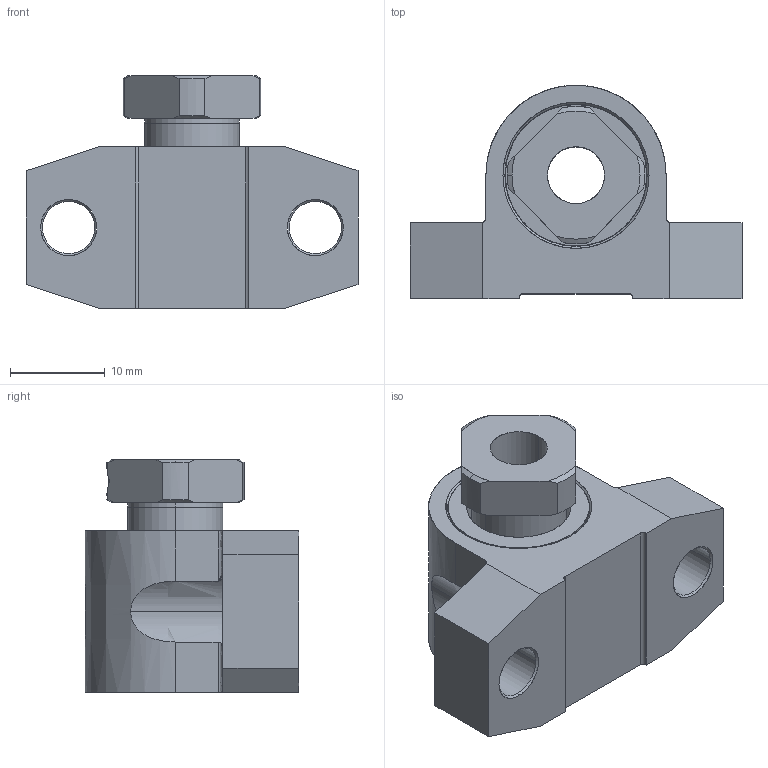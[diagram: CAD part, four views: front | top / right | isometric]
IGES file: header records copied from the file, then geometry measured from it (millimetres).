
Start section: SolidWorks IGES file using analytic representation for surfaces
Bounding box: 35 x 22.5 x 24.5 mm (x, y, z)
Surface area: 6071 mm2 (no closed solid volume)
Topology: 0 solids, 0 shells, 130 faces, 1791 edges, 1791 vertices
Faces by surface type: revolution 68, bspline 62
